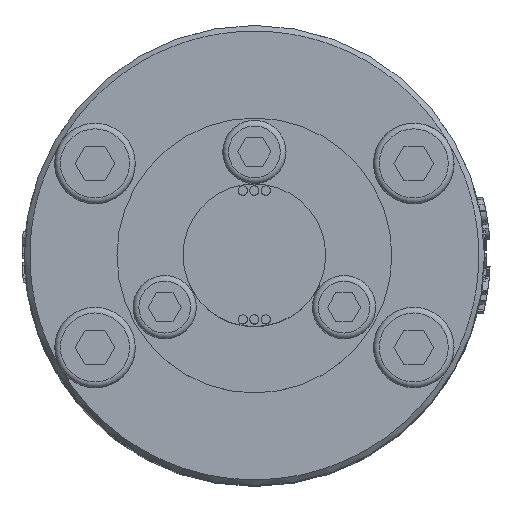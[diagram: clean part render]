
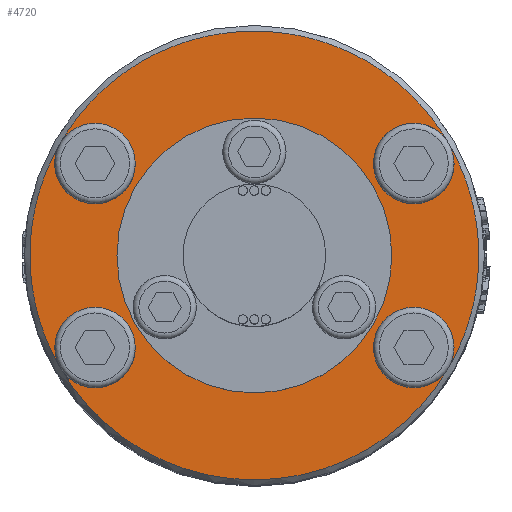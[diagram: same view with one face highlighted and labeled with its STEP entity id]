
A CAD part, top view. The second image highlights one B-rep face of the part: STEP entity #4720.
In plain terms, the highlighted planar face has unit normal (0, 0, 1).
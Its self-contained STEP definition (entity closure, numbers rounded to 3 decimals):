
#4325=FACE_BOUND('',#7152,.T.);
#4326=FACE_BOUND('',#7153,.T.);
#4720=ADVANCED_FACE('',(#4325,#4326),#5738,.T.);
#5738=PLANE('',#18203);
#7152=EDGE_LOOP('',(#8536,#8537,#8538,#8539,#8540,#8541,#8542,#8543));
#7153=EDGE_LOOP('',(#8544));
#8536=ORIENTED_EDGE('',*,*,#15381,.T.);
#8537=ORIENTED_EDGE('',*,*,#15301,.F.);
#8538=ORIENTED_EDGE('',*,*,#15380,.T.);
#8539=ORIENTED_EDGE('',*,*,#15364,.F.);
#8540=ORIENTED_EDGE('',*,*,#15379,.T.);
#8541=ORIENTED_EDGE('',*,*,#15343,.F.);
#8542=ORIENTED_EDGE('',*,*,#15382,.T.);
#8543=ORIENTED_EDGE('',*,*,#15322,.F.);
#8544=ORIENTED_EDGE('',*,*,#15288,.F.);
#13511=VERTEX_POINT('',#21945);
#13524=VERTEX_POINT('',#21981);
#13539=VERTEX_POINT('',#22027);
#13554=VERTEX_POINT('',#22073);
#13569=VERTEX_POINT('',#22119);
#15288=EDGE_CURVE('',#13511,#13511,#17872,.T.);
#15301=EDGE_CURVE('',#13524,#13524,#17879,.T.);
#15322=EDGE_CURVE('',#13539,#13539,#17882,.T.);
#15343=EDGE_CURVE('',#13554,#13554,#17885,.T.);
#15364=EDGE_CURVE('',#13569,#13569,#17888,.T.);
#15379=EDGE_CURVE('',#13569,#13554,#17891,.T.);
#15380=EDGE_CURVE('',#13524,#13569,#17892,.T.);
#15381=EDGE_CURVE('',#13539,#13524,#17893,.T.);
#15382=EDGE_CURVE('',#13554,#13539,#17894,.T.);
#17872=CIRCLE('',#18127,11.95);
#17879=CIRCLE('',#18144,3.5);
#17882=CIRCLE('',#18157,3.5);
#17885=CIRCLE('',#18170,3.5);
#17888=CIRCLE('',#18183,3.5);
#17891=CIRCLE('',#18196,19.5);
#17892=CIRCLE('',#18197,19.5);
#17893=CIRCLE('',#18198,19.5);
#17894=CIRCLE('',#18199,19.5);
#18127=AXIS2_PLACEMENT_3D('',#21944,#19109,#19110);
#18144=AXIS2_PLACEMENT_3D('',#21980,#19149,#19150);
#18157=AXIS2_PLACEMENT_3D('',#22026,#19193,#19194);
#18170=AXIS2_PLACEMENT_3D('',#22072,#19237,#19238);
#18183=AXIS2_PLACEMENT_3D('',#22118,#19281,#19282);
#18196=AXIS2_PLACEMENT_3D('',#22152,#19319,#19320);
#18197=AXIS2_PLACEMENT_3D('',#22153,#19321,#19322);
#18198=AXIS2_PLACEMENT_3D('',#22154,#19323,#19324);
#18199=AXIS2_PLACEMENT_3D('',#22155,#19325,#19326);
#18203=AXIS2_PLACEMENT_3D('',#22160,#19333,#19334);
#19109=DIRECTION('',(0.,0.,1.));
#19110=DIRECTION('',(0.,1.,0.));
#19149=DIRECTION('',(0.,0.,1.));
#19150=DIRECTION('',(1.,0.,0.));
#19193=DIRECTION('',(0.,0.,1.));
#19194=DIRECTION('',(1.,0.,0.));
#19237=DIRECTION('',(0.,0.,1.));
#19238=DIRECTION('',(1.,0.,0.));
#19281=DIRECTION('',(0.,0.,1.));
#19282=DIRECTION('',(1.,0.,0.));
#19319=DIRECTION('',(0.,0.,1.));
#19320=DIRECTION('',(1.,0.,0.));
#19321=DIRECTION('',(0.,0.,1.));
#19322=DIRECTION('',(1.,0.,0.));
#19323=DIRECTION('',(0.,0.,1.));
#19324=DIRECTION('',(1.,0.,0.));
#19325=DIRECTION('',(0.,0.,1.));
#19326=DIRECTION('',(1.,0.,0.));
#19333=DIRECTION('',(0.,0.,1.));
#19334=DIRECTION('',(1.,0.,0.));
#21944=CARTESIAN_POINT('',(0.,0.,63.));
#21945=CARTESIAN_POINT('',(0.,11.95,63.));
#21980=CARTESIAN_POINT('',(13.856,8.,63.));
#21981=CARTESIAN_POINT('',(16.887,9.75,63.));
#22026=CARTESIAN_POINT('',(13.856,-8.,63.));
#22027=CARTESIAN_POINT('',(16.887,-9.75,63.));
#22072=CARTESIAN_POINT('',(-13.856,-8.,63.));
#22073=CARTESIAN_POINT('',(-16.887,-9.75,63.));
#22118=CARTESIAN_POINT('',(-13.856,8.,63.));
#22119=CARTESIAN_POINT('',(-16.887,9.75,63.));
#22152=CARTESIAN_POINT('',(0.,0.,63.));
#22153=CARTESIAN_POINT('',(0.,0.,63.));
#22154=CARTESIAN_POINT('',(0.,0.,63.));
#22155=CARTESIAN_POINT('',(0.,0.,63.));
#22160=CARTESIAN_POINT('',(0.,0.,63.));
